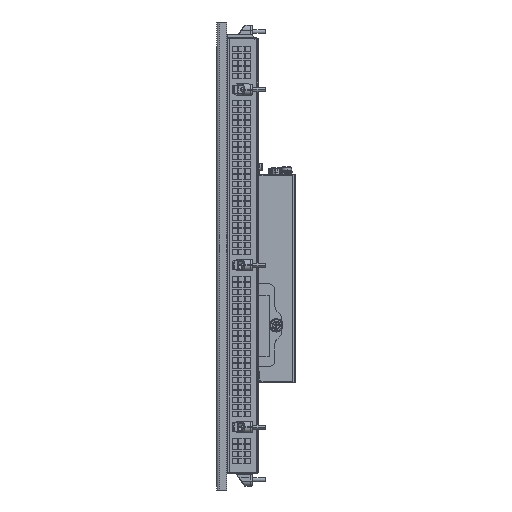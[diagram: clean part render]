
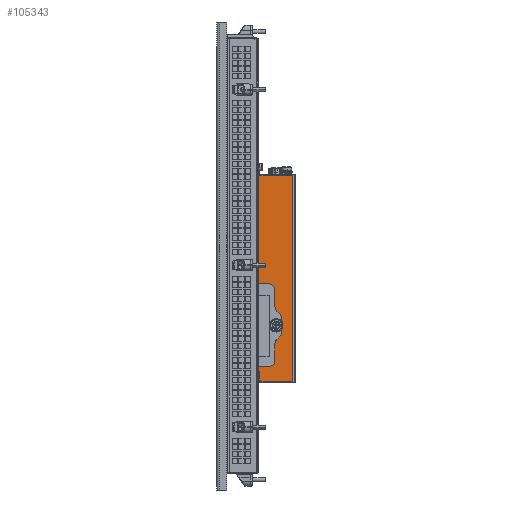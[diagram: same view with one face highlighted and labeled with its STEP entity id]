
A CAD part, left-side view. The second image highlights one B-rep face of the part: STEP entity #105343.
In plain terms, the highlighted planar face has unit normal (-1, 0, 0).
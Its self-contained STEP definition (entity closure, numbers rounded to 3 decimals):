
#80836=DIRECTION('',(0.,0.,1.));
#80837=VECTOR('',#80836,163.5);
#80838=CARTESIAN_POINT('',(-126.5,-47.9,-64.25));
#80839=LINE('',#80838,#80837);
#80840=DIRECTION('',(0.,1.,0.));
#80841=VECTOR('',#80840,8.5);
#80842=CARTESIAN_POINT('',(-126.5,-29.4,4.25));
#80843=LINE('',#80842,#80841);
#80844=DIRECTION('',(0.,-1.,0.));
#80845=VECTOR('',#80844,3.);
#80846=CARTESIAN_POINT('',(-126.5,-17.9,4.25));
#80847=LINE('',#80846,#80845);
#80848=DIRECTION('',(0.,-0.707,-0.707));
#80849=VECTOR('',#80848,1.414);
#80850=CARTESIAN_POINT('',(-126.5,-16.9,5.25));
#80851=LINE('',#80850,#80849);
#80852=DIRECTION('',(0.,0.,-1.));
#80853=VECTOR('',#80852,28.);
#80854=CARTESIAN_POINT('',(-126.5,-16.9,33.25));
#80855=LINE('',#80854,#80853);
#80856=DIRECTION('',(0.,0.707,-0.707));
#80857=VECTOR('',#80856,1.414);
#80858=CARTESIAN_POINT('',(-126.5,-17.9,34.25));
#80859=LINE('',#80858,#80857);
#80860=DIRECTION('',(0.,-1.,0.));
#80861=VECTOR('',#80860,3.);
#80862=CARTESIAN_POINT('',(-126.5,-17.9,34.25));
#80863=LINE('',#80862,#80861);
#80864=DIRECTION('',(0.,0.,-1.));
#80865=VECTOR('',#80864,55.);
#80866=CARTESIAN_POINT('',(-126.5,-20.9,89.25));
#80867=LINE('',#80866,#80865);
#80868=DIRECTION('',(0.,0.,-1.));
#80869=VECTOR('',#80868,4.);
#80870=CARTESIAN_POINT('',(-126.5,-20.9,93.25));
#80871=LINE('',#80870,#80869);
#80872=DIRECTION('',(0.,1.,0.));
#80873=VECTOR('',#80872,1.5);
#80874=CARTESIAN_POINT('',(-126.5,-20.9,93.25));
#80875=LINE('',#80874,#80873);
#80876=DIRECTION('',(0.,0.,-1.));
#80877=VECTOR('',#80876,3.);
#80878=CARTESIAN_POINT('',(-126.5,-19.4,93.25));
#80879=LINE('',#80878,#80877);
#80880=DIRECTION('',(0.,-0.707,0.707));
#80881=VECTOR('',#80880,1.414);
#80882=CARTESIAN_POINT('',(-126.5,-18.4,89.25));
#80883=LINE('',#80882,#80881);
#80884=DIRECTION('',(0.,-1.,0.));
#80885=VECTOR('',#80884,0.5);
#80886=CARTESIAN_POINT('',(-126.5,-17.9,89.25));
#80887=LINE('',#80886,#80885);
#80888=DIRECTION('',(0.,-0.707,-0.707));
#80889=VECTOR('',#80888,1.414);
#80890=CARTESIAN_POINT('',(-126.5,-16.9,90.25));
#80891=LINE('',#80890,#80889);
#80892=DIRECTION('',(0.,0.,-1.));
#80893=VECTOR('',#80892,8.);
#80894=CARTESIAN_POINT('',(-126.5,-16.9,98.25));
#80895=LINE('',#80894,#80893);
#80896=DIRECTION('',(0.,0.707,-0.707));
#80897=VECTOR('',#80896,1.414);
#80898=CARTESIAN_POINT('',(-126.5,-17.9,99.25));
#80899=LINE('',#80898,#80897);
#80900=DIRECTION('',(0.,0.,1.));
#80901=VECTOR('',#80900,4.);
#80902=CARTESIAN_POINT('',(-126.5,-20.9,-64.25));
#80903=LINE('',#80902,#80901);
#80904=DIRECTION('',(0.,1.,0.));
#80905=VECTOR('',#80904,1.5);
#80906=CARTESIAN_POINT('',(-126.5,-20.9,-60.25));
#80907=LINE('',#80906,#80905);
#80908=DIRECTION('',(0.,0.,-1.));
#80909=VECTOR('',#80908,3.);
#80910=CARTESIAN_POINT('',(-126.5,-19.4,-60.25));
#80911=LINE('',#80910,#80909);
#80912=DIRECTION('',(0.,-0.707,0.707));
#80913=VECTOR('',#80912,1.414);
#80914=CARTESIAN_POINT('',(-126.5,-18.4,-64.25));
#80915=LINE('',#80914,#80913);
#80916=DIRECTION('',(0.,-0.707,-0.707));
#80917=VECTOR('',#80916,1.414);
#80918=CARTESIAN_POINT('',(-126.5,-16.9,-63.25));
#80919=LINE('',#80918,#80917);
#80920=DIRECTION('',(0.,0.,-1.));
#80921=VECTOR('',#80920,6.5);
#80922=CARTESIAN_POINT('',(-126.5,-16.9,-56.75));
#80923=LINE('',#80922,#80921);
#80924=DIRECTION('',(0.,0.707,-0.707));
#80925=VECTOR('',#80924,1.414);
#80926=CARTESIAN_POINT('',(-126.5,-17.9,-55.75));
#80927=LINE('',#80926,#80925);
#80928=DIRECTION('',(0.,-1.,0.));
#80929=VECTOR('',#80928,3.);
#80930=CARTESIAN_POINT('',(-126.5,-17.9,-55.75));
#80931=LINE('',#80930,#80929);
#80932=DIRECTION('',(0.,0.,-1.));
#80933=VECTOR('',#80932,12.);
#80934=CARTESIAN_POINT('',(-126.5,-20.9,-43.75));
#80935=LINE('',#80934,#80933);
#80936=DIRECTION('',(0.,-1.,0.));
#80937=VECTOR('',#80936,8.5);
#80938=CARTESIAN_POINT('',(-126.5,-20.9,-43.75));
#80939=LINE('',#80938,#80937);
#80940=DIRECTION('',(0.,0.,1.));
#80941=VECTOR('',#80940,48.);
#80942=CARTESIAN_POINT('',(-126.5,-29.4,-43.75));
#80943=LINE('',#80942,#80941);
#80944=CARTESIAN_POINT('',(-126.5,-34.9,-19.25));
#80945=DIRECTION('',(-1.,0.,0.));
#80946=DIRECTION('',(0.,0.,1.));
#80947=AXIS2_PLACEMENT_3D('',#80944,#80945,#80946);
#80949=CARTESIAN_POINT('',(-126.5,-34.9,-19.25));
#80950=DIRECTION('',(-1.,0.,0.));
#80951=DIRECTION('',(0.,0.,-1.));
#80952=AXIS2_PLACEMENT_3D('',#80949,#80950,#80951);
#81112=DIRECTION('',(0.,-1.,0.));
#81113=VECTOR('',#81112,0.5);
#81114=CARTESIAN_POINT('',(-126.5,-17.9,-64.25));
#81115=LINE('',#81114,#81113);
#81124=DIRECTION('',(0.,-1.,0.));
#81125=VECTOR('',#81124,27.);
#81126=CARTESIAN_POINT('',(-126.5,-20.9,-64.25));
#81127=LINE('',#81126,#81125);
#81140=DIRECTION('',(0.,1.,0.));
#81141=VECTOR('',#81140,30.);
#81142=CARTESIAN_POINT('',(-126.5,-47.9,99.25));
#81143=LINE('',#81142,#81141);
#94000=CARTESIAN_POINT('',(-126.5,-47.9,-64.25));
#94001=CARTESIAN_POINT('',(-126.5,-47.9,99.25));
#94002=VERTEX_POINT('',#94000);
#94003=VERTEX_POINT('',#94001);
#96490=CARTESIAN_POINT('',(-126.5,-20.9,-60.25));
#96491=CARTESIAN_POINT('',(-126.5,-20.9,-64.25));
#96492=VERTEX_POINT('',#96490);
#96493=VERTEX_POINT('',#96491);
#96494=CARTESIAN_POINT('',(-126.5,-19.4,-60.25));
#96495=VERTEX_POINT('',#96494);
#96520=CARTESIAN_POINT('',(-126.5,-20.9,89.25));
#96521=CARTESIAN_POINT('',(-126.5,-20.9,34.25));
#96522=VERTEX_POINT('',#96520);
#96523=VERTEX_POINT('',#96521);
#96536=CARTESIAN_POINT('',(-126.5,-20.9,-55.75));
#96538=VERTEX_POINT('',#96536);
#96572=CARTESIAN_POINT('',(-126.5,-17.9,-55.75));
#96573=CARTESIAN_POINT('',(-126.5,-16.9,-56.75));
#96574=VERTEX_POINT('',#96572);
#96575=VERTEX_POINT('',#96573);
#96580=CARTESIAN_POINT('',(-126.5,-16.9,5.25));
#96581=CARTESIAN_POINT('',(-126.5,-17.9,4.25));
#96582=VERTEX_POINT('',#96580);
#96583=VERTEX_POINT('',#96581);
#96588=CARTESIAN_POINT('',(-126.5,-17.9,34.25));
#96589=CARTESIAN_POINT('',(-126.5,-16.9,33.25));
#96590=VERTEX_POINT('',#96588);
#96591=VERTEX_POINT('',#96589);
#96596=CARTESIAN_POINT('',(-126.5,-16.9,90.25));
#96597=CARTESIAN_POINT('',(-126.5,-17.9,89.25));
#96598=VERTEX_POINT('',#96596);
#96599=VERTEX_POINT('',#96597);
#96606=CARTESIAN_POINT('',(-126.5,-18.4,89.25));
#96607=VERTEX_POINT('',#96606);
#96612=CARTESIAN_POINT('',(-126.5,-16.9,98.25));
#96613=VERTEX_POINT('',#96612);
#96614=CARTESIAN_POINT('',(-126.5,-16.9,-63.25));
#96615=VERTEX_POINT('',#96614);
#96628=CARTESIAN_POINT('',(-126.5,-20.9,4.25));
#96629=CARTESIAN_POINT('',(-126.5,-29.4,4.25));
#96630=VERTEX_POINT('',#96628);
#96631=VERTEX_POINT('',#96629);
#96632=CARTESIAN_POINT('',(-126.5,-29.4,-43.75));
#96633=VERTEX_POINT('',#96632);
#96634=CARTESIAN_POINT('',(-126.5,-20.9,-43.75));
#96635=VERTEX_POINT('',#96634);
#96646=CARTESIAN_POINT('',(-126.5,-19.4,93.25));
#96647=CARTESIAN_POINT('',(-126.5,-20.9,93.25));
#96648=VERTEX_POINT('',#96646);
#96649=VERTEX_POINT('',#96647);
#96668=CARTESIAN_POINT('',(-126.5,-18.4,-64.25));
#96669=CARTESIAN_POINT('',(-126.5,-19.4,-63.25));
#96670=VERTEX_POINT('',#96668);
#96671=VERTEX_POINT('',#96669);
#96676=CARTESIAN_POINT('',(-126.5,-19.4,90.25));
#96677=VERTEX_POINT('',#96676);
#96688=CARTESIAN_POINT('',(-126.5,-17.9,-64.25));
#96689=VERTEX_POINT('',#96688);
#96692=CARTESIAN_POINT('',(-126.5,-17.9,99.25));
#96693=VERTEX_POINT('',#96692);
#99280=CARTESIAN_POINT('',(-126.5,-34.9,-21.4));
#99281=CARTESIAN_POINT('',(-126.5,-34.9,-17.1));
#99282=VERTEX_POINT('',#99280);
#99283=VERTEX_POINT('',#99281);
#105271=CARTESIAN_POINT('',(-126.5,-20.9,-64.25));
#105272=DIRECTION('',(-1.,0.,0.));
#105273=DIRECTION('',(0.,-1.,0.));
#105274=AXIS2_PLACEMENT_3D('',#105271,#105272,#105273);
#105275=PLANE('',#105274);
#105277=ORIENTED_EDGE('',*,*,#105276,.T.);
#105279=ORIENTED_EDGE('',*,*,#105278,.F.);
#105281=ORIENTED_EDGE('',*,*,#105280,.F.);
#105283=ORIENTED_EDGE('',*,*,#105282,.F.);
#105285=ORIENTED_EDGE('',*,*,#105284,.F.);
#105287=ORIENTED_EDGE('',*,*,#105286,.T.);
#105289=ORIENTED_EDGE('',*,*,#105288,.F.);
#105291=ORIENTED_EDGE('',*,*,#105290,.F.);
#105293=ORIENTED_EDGE('',*,*,#105292,.T.);
#105295=ORIENTED_EDGE('',*,*,#105294,.T.);
#105297=ORIENTED_EDGE('',*,*,#105296,.F.);
#105299=ORIENTED_EDGE('',*,*,#105298,.F.);
#105301=ORIENTED_EDGE('',*,*,#105300,.F.);
#105303=ORIENTED_EDGE('',*,*,#105302,.F.);
#105305=ORIENTED_EDGE('',*,*,#105304,.F.);
#105307=ORIENTED_EDGE('',*,*,#105306,.F.);
#105308=ORIENTED_EDGE('',*,*,#105263,.F.);
#105310=ORIENTED_EDGE('',*,*,#105309,.F.);
#105312=ORIENTED_EDGE('',*,*,#105311,.T.);
#105314=ORIENTED_EDGE('',*,*,#105313,.T.);
#105316=ORIENTED_EDGE('',*,*,#105315,.T.);
#105318=ORIENTED_EDGE('',*,*,#105317,.F.);
#105320=ORIENTED_EDGE('',*,*,#105319,.F.);
#105322=ORIENTED_EDGE('',*,*,#105321,.F.);
#105324=ORIENTED_EDGE('',*,*,#105323,.F.);
#105326=ORIENTED_EDGE('',*,*,#105325,.F.);
#105328=ORIENTED_EDGE('',*,*,#105327,.T.);
#105330=ORIENTED_EDGE('',*,*,#105329,.F.);
#105332=ORIENTED_EDGE('',*,*,#105331,.T.);
#105334=ORIENTED_EDGE('',*,*,#105333,.T.);
#105335=EDGE_LOOP('',(#105277,#105279,#105281,#105283,#105285,#105287,#105289,
#105291,#105293,#105295,#105297,#105299,#105301,#105303,#105305,#105307,#105308,
#105310,#105312,#105314,#105316,#105318,#105320,#105322,#105324,#105326,#105328,
#105330,#105332,#105334));
#105336=FACE_OUTER_BOUND('',#105335,.F.);
#105338=ORIENTED_EDGE('',*,*,#105337,.T.);
#105340=ORIENTED_EDGE('',*,*,#105339,.T.);
#105341=EDGE_LOOP('',(#105338,#105340));
#105342=FACE_BOUND('',#105341,.F.);
#80948=CIRCLE('',#80947,2.15);
#80953=CIRCLE('',#80952,2.15);
#105263=EDGE_CURVE('',#94002,#94003,#80839,.T.);
#105276=EDGE_CURVE('',#96631,#96630,#80843,.T.);
#105278=EDGE_CURVE('',#96583,#96630,#80847,.T.);
#105280=EDGE_CURVE('',#96582,#96583,#80851,.T.);
#105282=EDGE_CURVE('',#96591,#96582,#80855,.T.);
#105284=EDGE_CURVE('',#96590,#96591,#80859,.T.);
#105286=EDGE_CURVE('',#96590,#96523,#80863,.T.);
#105288=EDGE_CURVE('',#96522,#96523,#80867,.T.);
#105290=EDGE_CURVE('',#96649,#96522,#80871,.T.);
#105292=EDGE_CURVE('',#96649,#96648,#80875,.T.);
#105294=EDGE_CURVE('',#96648,#96677,#80879,.T.);
#105296=EDGE_CURVE('',#96607,#96677,#80883,.T.);
#105298=EDGE_CURVE('',#96599,#96607,#80887,.T.);
#105300=EDGE_CURVE('',#96598,#96599,#80891,.T.);
#105302=EDGE_CURVE('',#96613,#96598,#80895,.T.);
#105304=EDGE_CURVE('',#96693,#96613,#80899,.T.);
#105306=EDGE_CURVE('',#94003,#96693,#81143,.T.);
#105309=EDGE_CURVE('',#96493,#94002,#81127,.T.);
#105311=EDGE_CURVE('',#96493,#96492,#80903,.T.);
#105313=EDGE_CURVE('',#96492,#96495,#80907,.T.);
#105315=EDGE_CURVE('',#96495,#96671,#80911,.T.);
#105317=EDGE_CURVE('',#96670,#96671,#80915,.T.);
#105319=EDGE_CURVE('',#96689,#96670,#81115,.T.);
#105321=EDGE_CURVE('',#96615,#96689,#80919,.T.);
#105323=EDGE_CURVE('',#96575,#96615,#80923,.T.);
#105325=EDGE_CURVE('',#96574,#96575,#80927,.T.);
#105327=EDGE_CURVE('',#96574,#96538,#80931,.T.);
#105329=EDGE_CURVE('',#96635,#96538,#80935,.T.);
#105331=EDGE_CURVE('',#96635,#96633,#80939,.T.);
#105333=EDGE_CURVE('',#96633,#96631,#80943,.T.);
#105337=EDGE_CURVE('',#99283,#99282,#80948,.T.);
#105339=EDGE_CURVE('',#99282,#99283,#80953,.T.);
#105343=ADVANCED_FACE('',(#105336,#105342),#105275,.T.);
